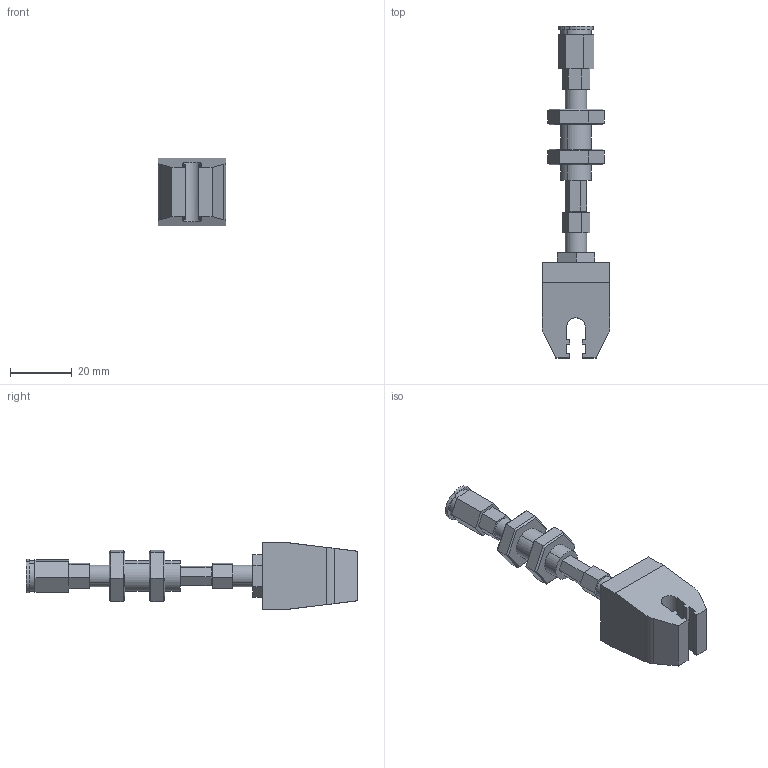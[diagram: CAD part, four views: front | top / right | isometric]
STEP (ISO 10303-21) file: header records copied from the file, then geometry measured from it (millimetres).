
FILE_DESCRIPTION (( 'STEP AP214' ), '1' );
FILE_NAME ('GBS-20006-S01.STEP', '2019-12-04T09:02:50', ( '微软用户' ), ( '微软中国' ), 'SwSTEP 2.0', 'SolidWorks 2016', '' );
FILE_SCHEMA (( 'AUTOMOTIVE_DESIGN' ));
Length unit declared in the file: millimetre
Products named in the file (1): GBS-20006-S01
Bounding box: 22 x 107.4 x 22 mm (x, y, z)
Volume: 16703.6 mm3; surface area: 9088.6 mm2
Topology: 3 solids, 3 shells, 168 faces, 390 edges, 246 vertices
Faces by surface type: plane 123, cylinder 37, cone 8
Entity records: 6608 total; most frequent: CARTESIAN_POINT 823, DIRECTION 804, ORIENTED_EDGE 780, EDGE_CURVE 390, VECTOR 302, LINE 302, AXIS2_PLACEMENT_3D 251, VERTEX_POINT 246
